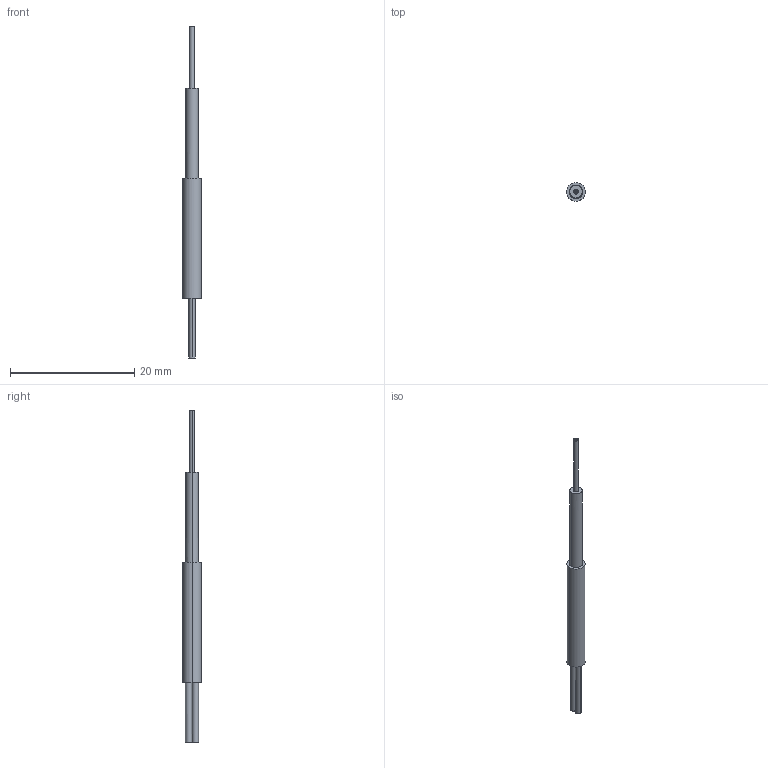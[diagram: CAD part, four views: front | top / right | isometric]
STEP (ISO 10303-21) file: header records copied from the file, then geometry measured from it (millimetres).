
FILE_DESCRIPTION((''),'2;1');
FILE_NAME('PD-E22-Q_ASM','2022-10-13T09:08:43',('lx'),(''),'CREO PARAMETRIC BY PTC INC, 2022073','CREO PARAMETRIC BY PTC INC, 2022073','');
FILE_SCHEMA(('AUTOMOTIVE_DESIGN { 1 0 10303 214 1 1 1 1 }'));
Length unit declared in the file: millimetre
Products named in the file (6): _2_1_0001; _40001; _30001; _2_3_0001; PD-E22-Q_1_ASM; PD-E22-Q_ASM
Assembly tree (5 placements, depth 3):
  PD-E22-Q_ASM
    PD-E22-Q_1_ASM
      _2_1_0001
      _40001
      _30001
      _2_3_0001
Bounding box: 3 x 3 x 53.51 mm (x, y, z)
Volume: 162.5 mm3; surface area: 627.5 mm2
Topology: 4 solids, 4 shells, 38 faces, 76 edges, 50 vertices
Faces by surface type: cylinder 22, plane 12, extrusion 4
Entity records: 1465 total; most frequent: CARTESIAN_POINT 320, DIRECTION 216, ORIENTED_EDGE 152, AXIS2_PLACEMENT_3D 95, EDGE_CURVE 76, VERTEX_POINT 50, CIRCLE 46, EDGE_LOOP 44
